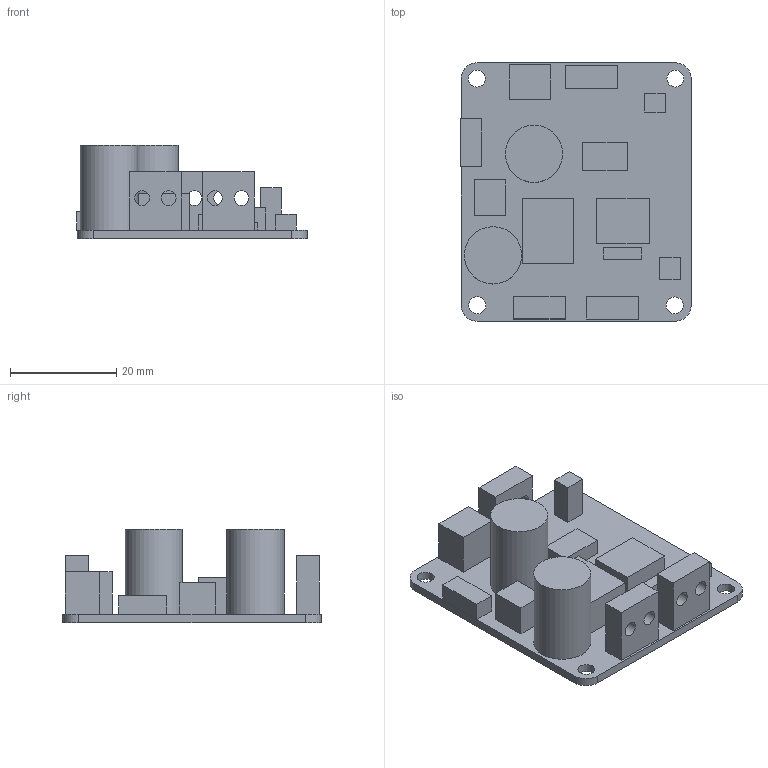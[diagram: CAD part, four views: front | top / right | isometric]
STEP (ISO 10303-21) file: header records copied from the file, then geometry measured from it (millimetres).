
FILE_DESCRIPTION(('FreeCAD Model'),'2;1');
FILE_NAME('Open CASCADE Shape Model','2026-01-30T09:31:14',(''),(''), 'Open CASCADE STEP processor 7.8','FreeCAD','Unknown');
FILE_SCHEMA(('AUTOMOTIVE_DESIGN { 1 0 10303 214 1 1 1 1 }'));
Length unit declared in the file: millimetre
Products named in the file (16): DFRobot_Power_Module_v; PCB (fillet R3.0); TB_TOP - Green terminal block (top); TB_BL - Green terminal block (bottom-left); TB_BR - Green terminal block (bottom-right); J1 - White connector (top-left); C1 - Electrolytic capacitor (top); C2 - Electrolytic capacitor (bottom-left); L1 - Inductor (rect envelope); U1 - Power IC (TO-263/D2PAK proxy); D1 - Left vertical package (envelope); D2 - Mid-right small package (envelope); VR1 - Trimmer potentiometer (blue body envelope); JP1 - Small header/connector (top-right); U2 - Small square part (bottom-right); R1 - Thin strip part (envelope)
Assembly tree (15 placements, depth 2):
  DFRobot_Power_Module_v
    PCB (fillet R3.0)
    TB_TOP - Green terminal block (top)
    TB_BL - Green terminal block (bottom-left)
    TB_BR - Green terminal block (bottom-right)
    J1 - White connector (top-left)
    C1 - Electrolytic capacitor (top)
    C2 - Electrolytic capacitor (bottom-left)
    L1 - Inductor (rect envelope)
    U1 - Power IC (TO-263/D2PAK proxy)
    D1 - Left vertical package (envelope)
    D2 - Mid-right small package (envelope)
    VR1 - Trimmer potentiometer (blue body envelope)
    JP1 - Small header/connector (top-right)
    U2 - Small square part (bottom-right)
    R1 - Thin strip part (envelope)
Bounding box: 43.36 x 48.64 x 17.6 mm (x, y, z)
Volume: 9703.5 mm3; surface area: 9307 mm2
Topology: 15 solids, 15 shells, 98 faces, 204 edges, 136 vertices
Faces by surface type: plane 82, cylinder 16
Full cylindrical faces by diameter (mm): 2.8 x6, 3.2 x4, 10.76 x1, 10.77 x1
Entity records: 3033 total; most frequent: DIRECTION 464, CARTESIAN_POINT 454, ORIENTED_EDGE 408, EDGE_CURVE 204, LINE 172, VECTOR 172, AXIS2_PLACEMENT_3D 146, VERTEX_POINT 136
